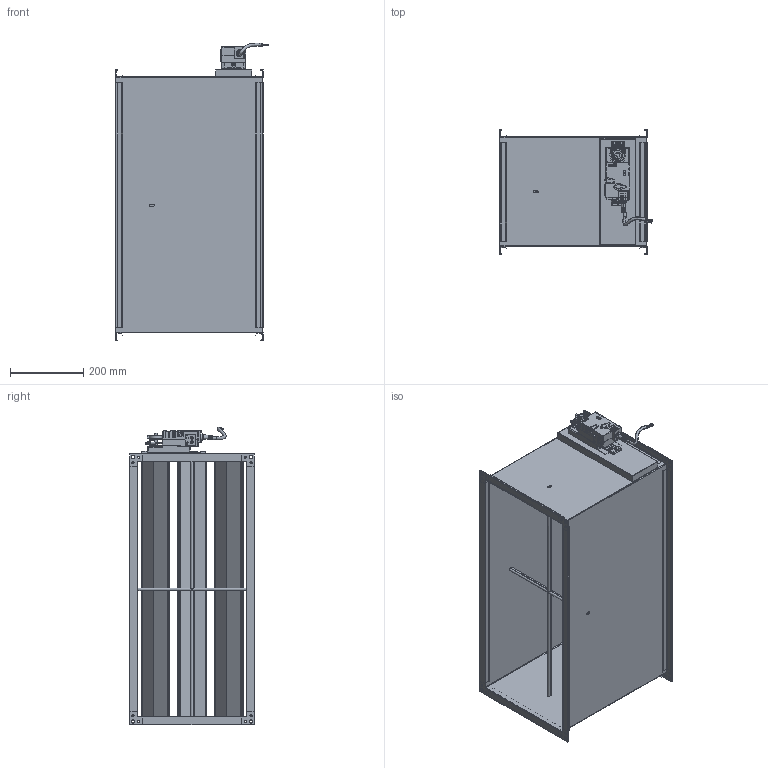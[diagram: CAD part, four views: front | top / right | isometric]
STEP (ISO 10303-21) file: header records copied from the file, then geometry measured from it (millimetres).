
FILE_DESCRIPTION (( 'STEP AP214' ), '1' );
FILE_NAME ('VAV-S700300.STEP', '2025-05-08T11:42:24', ( '' ), ( '' ), 'SwSTEP 2.0', 'SolidWorks 2025', '' );
FILE_SCHEMA (( 'AUTOMOTIVE_DESIGN' ));
Length unit declared in the file: millimetre
Products named in the file (1): VAV-S700300
Bounding box: 420.13 x 341 x 813.69 mm (x, y, z)
Surface area: 2937463.3 mm2 (no closed solid volume)
Topology: 0 solids, 48 shells, 2054 faces, 5353 edges, 3404 vertices
Faces by surface type: plane 1523, cylinder 478, bspline 24, sphere 18, cone 10, torus 1
Full cylindrical faces by diameter (mm): 1 x4, 6 x17, 8 x1, 9 x8, 11 x1, 20 x1, 21 x2
Entity records: 90592 total; most frequent: CARTESIAN_POINT 41382, ORIENTED_EDGE 10489, DIRECTION 6660, EDGE_CURVE 5268, VERTEX_POINT 3377, B_SPLINE_CURVE_WITH_KNOTS 3170, AXIS2_PLACEMENT_3D 2543, EDGE_LOOP 2256
